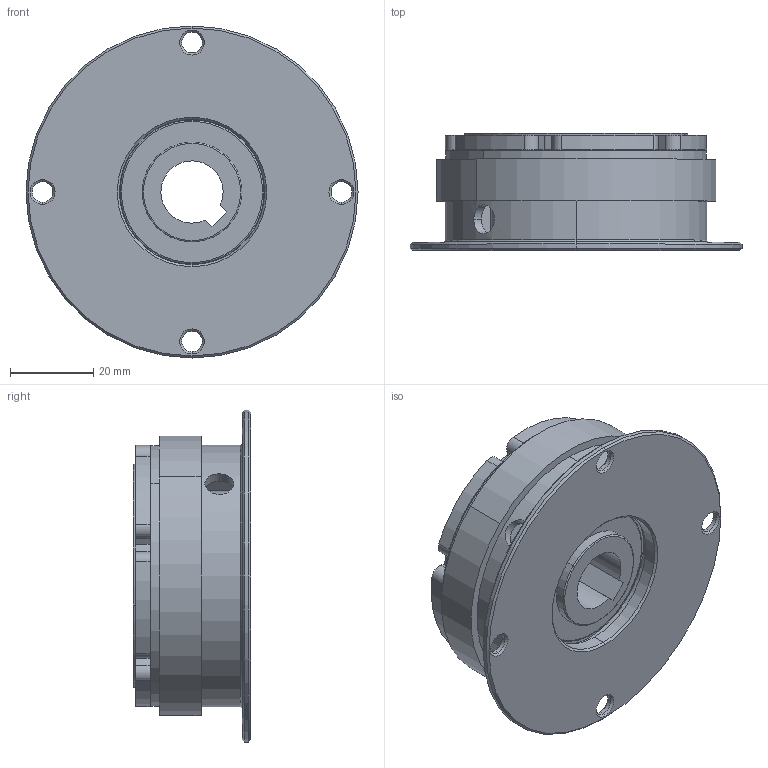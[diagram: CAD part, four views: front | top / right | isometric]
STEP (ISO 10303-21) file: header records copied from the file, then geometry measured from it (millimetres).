
FILE_DESCRIPTION (( 'STEP AP214' ), '1' );
FILE_NAME ('C-S50-F01-15.STEP', '2018-05-21T07:25:08', ( 'tec4' ), ( '' ), 'SwSTEP 2.0', 'SolidWorks 2015', '' );
FILE_SCHEMA (( 'AUTOMOTIVE_DESIGN' ));
Length unit declared in the file: millimetre
Products named in the file (1): C-S50-F01-15
Bounding box: 80 x 28.2 x 80 mm (x, y, z)
Surface area: 31552.8 mm2 (no closed solid volume)
Topology: 0 solids, 7 shells, 151 faces, 410 edges, 272 vertices
Faces by surface type: cylinder 85, plane 32, cone 30, torus 4
Entity records: 6728 total; most frequent: CARTESIAN_POINT 966, DIRECTION 952, ORIENTED_EDGE 762, EDGE_CURVE 410, AXIS2_PLACEMENT_3D 394, VERTEX_POINT 272, CIRCLE 242, EDGE_LOOP 201
